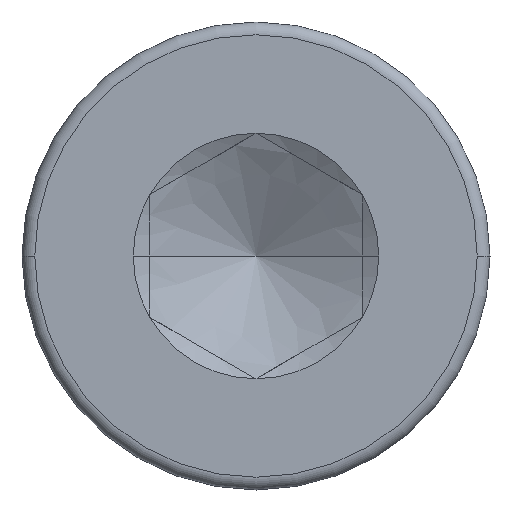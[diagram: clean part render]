
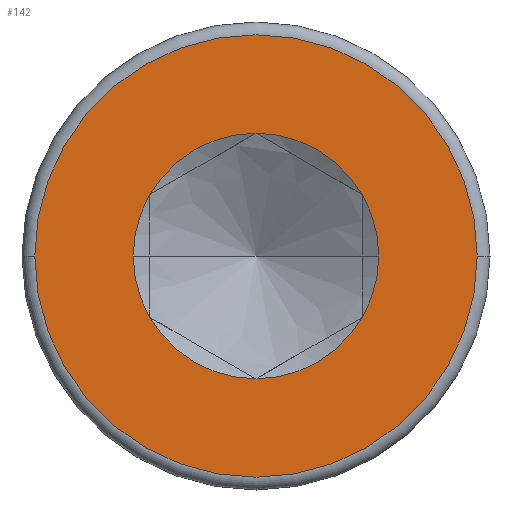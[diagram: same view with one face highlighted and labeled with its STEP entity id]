
A CAD part, left-side view. The second image highlights one B-rep face of the part: STEP entity #142.
In plain terms, the highlighted planar face has unit normal (-1, 0, 0).
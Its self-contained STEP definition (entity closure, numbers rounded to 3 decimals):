
#63=FACE_BOUND('',#214,.F.);
#74=PLANE('',#899);
#142=ADVANCED_FACE('',(#63,#177),#74,.T.);
#177=FACE_OUTER_BOUND('',#215,.F.);
#214=EDGE_LOOP('',(#346,#347,#348,#349,#350,#351,#352,#353,#354,#355,#356,
#357,#358,#359,#360,#361));
#215=EDGE_LOOP('',(#362,#363));
#346=ORIENTED_EDGE('',*,*,#703,.T.);
#347=ORIENTED_EDGE('',*,*,#736,.T.);
#348=ORIENTED_EDGE('',*,*,#735,.T.);
#349=ORIENTED_EDGE('',*,*,#702,.T.);
#350=ORIENTED_EDGE('',*,*,#701,.T.);
#351=ORIENTED_EDGE('',*,*,#734,.T.);
#352=ORIENTED_EDGE('',*,*,#741,.T.);
#353=ORIENTED_EDGE('',*,*,#689,.T.);
#354=ORIENTED_EDGE('',*,*,#700,.T.);
#355=ORIENTED_EDGE('',*,*,#740,.T.);
#356=ORIENTED_EDGE('',*,*,#739,.T.);
#357=ORIENTED_EDGE('',*,*,#699,.T.);
#358=ORIENTED_EDGE('',*,*,#698,.T.);
#359=ORIENTED_EDGE('',*,*,#738,.T.);
#360=ORIENTED_EDGE('',*,*,#737,.T.);
#361=ORIENTED_EDGE('',*,*,#688,.T.);
#362=ORIENTED_EDGE('',*,*,#749,.F.);
#363=ORIENTED_EDGE('',*,*,#742,.F.);
#620=LINE('',#1146,#650);
#621=LINE('',#1147,#651);
#622=LINE('',#1196,#652);
#623=LINE('',#1197,#653);
#624=LINE('',#1198,#654);
#625=LINE('',#1199,#655);
#626=LINE('',#1200,#656);
#627=LINE('',#1201,#657);
#650=VECTOR('',#944,0.001);
#651=VECTOR('',#945,0.001);
#652=VECTOR('',#946,0.001);
#653=VECTOR('',#947,0.001);
#654=VECTOR('',#948,0.001);
#655=VECTOR('',#949,0.001);
#656=VECTOR('',#950,0.001);
#657=VECTOR('',#951,0.001);
#688=EDGE_CURVE('',#832,#831,#620,.T.);
#689=EDGE_CURVE('',#830,#829,#621,.T.);
#698=EDGE_CURVE('',#818,#827,#622,.T.);
#699=EDGE_CURVE('',#819,#818,#623,.T.);
#700=EDGE_CURVE('',#829,#820,#624,.T.);
#701=EDGE_CURVE('',#817,#822,#625,.T.);
#702=EDGE_CURVE('',#824,#817,#626,.T.);
#703=EDGE_CURVE('',#831,#825,#627,.T.);
#734=EDGE_CURVE('',#822,#807,#768,.T.);
#735=EDGE_CURVE('',#826,#824,#769,.T.);
#736=EDGE_CURVE('',#825,#826,#770,.T.);
#737=EDGE_CURVE('',#808,#832,#771,.T.);
#738=EDGE_CURVE('',#827,#808,#772,.T.);
#739=EDGE_CURVE('',#821,#819,#773,.T.);
#740=EDGE_CURVE('',#820,#821,#774,.T.);
#741=EDGE_CURVE('',#807,#830,#775,.T.);
#742=EDGE_CURVE('',#797,#796,#776,.T.);
#749=EDGE_CURVE('',#796,#797,#781,.T.);
#768=CIRCLE('',#859,1.443);
#769=CIRCLE('',#860,1.443);
#770=CIRCLE('',#861,1.443);
#771=CIRCLE('',#862,1.443);
#772=CIRCLE('',#863,1.443);
#773=CIRCLE('',#864,1.443);
#774=CIRCLE('',#865,1.443);
#775=CIRCLE('',#866,1.443);
#776=CIRCLE('',#867,2.6);
#781=CIRCLE('',#872,2.6);
#796=VERTEX_POINT('',#1109);
#797=VERTEX_POINT('',#1110);
#807=VERTEX_POINT('',#1120);
#808=VERTEX_POINT('',#1121);
#817=VERTEX_POINT('',#1130);
#818=VERTEX_POINT('',#1131);
#819=VERTEX_POINT('',#1132);
#820=VERTEX_POINT('',#1133);
#821=VERTEX_POINT('',#1134);
#822=VERTEX_POINT('',#1135);
#824=VERTEX_POINT('',#1137);
#825=VERTEX_POINT('',#1138);
#826=VERTEX_POINT('',#1139);
#827=VERTEX_POINT('',#1140);
#829=VERTEX_POINT('',#1142);
#830=VERTEX_POINT('',#1143);
#831=VERTEX_POINT('',#1144);
#832=VERTEX_POINT('',#1145);
#859=AXIS2_PLACEMENT_3D('',#1272,#982,#983);
#860=AXIS2_PLACEMENT_3D('',#1273,#984,#985);
#861=AXIS2_PLACEMENT_3D('',#1274,#986,#987);
#862=AXIS2_PLACEMENT_3D('',#1275,#988,#989);
#863=AXIS2_PLACEMENT_3D('',#1276,#990,#991);
#864=AXIS2_PLACEMENT_3D('',#1277,#992,#993);
#865=AXIS2_PLACEMENT_3D('',#1278,#994,#995);
#866=AXIS2_PLACEMENT_3D('',#1279,#996,#997);
#867=AXIS2_PLACEMENT_3D('',#1280,#998,#999);
#872=AXIS2_PLACEMENT_3D('',#1287,#1010,#1011);
#899=AXIS2_PLACEMENT_3D('',#1314,#1064,#1065);
#944=DIRECTION('',(0.,0.,1.));
#945=DIRECTION('',(0.,0.,-1.));
#946=DIRECTION('',(0.,0.,1.));
#947=DIRECTION('',(0.,-0.866,0.5));
#948=DIRECTION('',(0.,-0.866,-0.5));
#949=DIRECTION('',(0.,0.,-1.));
#950=DIRECTION('',(0.,0.866,-0.5));
#951=DIRECTION('',(0.,0.866,0.5));
#982=DIRECTION('',(-1.,0.,0.));
#983=DIRECTION('',(0.,0.867,0.499));
#984=DIRECTION('',(-1.,0.,0.));
#985=DIRECTION('',(0.,0.,1.));
#986=DIRECTION('',(-1.,0.,0.));
#987=DIRECTION('',(0.,-0.866,0.5));
#988=DIRECTION('',(-1.,0.,0.));
#989=DIRECTION('',(0.,-1.,0.));
#990=DIRECTION('',(-1.,0.,0.));
#991=DIRECTION('',(0.,-0.867,-0.499));
#992=DIRECTION('',(-1.,0.,0.));
#993=DIRECTION('',(0.,0.,-1.));
#994=DIRECTION('',(-1.,0.,0.));
#995=DIRECTION('',(0.,0.866,-0.5));
#996=DIRECTION('',(-1.,0.,0.));
#997=DIRECTION('',(0.,1.,0.));
#998=DIRECTION('',(-1.,0.,0.));
#999=DIRECTION('',(0.,1.,0.));
#1010=DIRECTION('',(-1.,0.,0.));
#1011=DIRECTION('',(0.,-1.,0.));
#1064=DIRECTION('',(-1.,0.,0.));
#1065=DIRECTION('',(0.,0.,1.));
#1109=CARTESIAN_POINT('',(-3.,-2.6,0.));
#1110=CARTESIAN_POINT('',(-3.,2.6,0.));
#1120=CARTESIAN_POINT('',(-3.,1.443,0.));
#1121=CARTESIAN_POINT('',(-3.,-1.443,0.));
#1130=CARTESIAN_POINT('',(-3.,1.25,0.721));
#1131=CARTESIAN_POINT('',(-3.,-1.25,-0.721));
#1132=CARTESIAN_POINT('',(-3.,-1.249,-0.722));
#1133=CARTESIAN_POINT('',(-3.,1.249,-0.722));
#1134=CARTESIAN_POINT('',(-3.,0.,-1.443));
#1135=CARTESIAN_POINT('',(-3.,1.25,0.72));
#1137=CARTESIAN_POINT('',(-3.,1.249,0.722));
#1138=CARTESIAN_POINT('',(-3.,-1.249,0.722));
#1139=CARTESIAN_POINT('',(-3.,0.,1.443));
#1140=CARTESIAN_POINT('',(-3.,-1.25,-0.72));
#1142=CARTESIAN_POINT('',(-3.,1.25,-0.721));
#1143=CARTESIAN_POINT('',(-3.,1.25,-0.72));
#1144=CARTESIAN_POINT('',(-3.,-1.25,0.721));
#1145=CARTESIAN_POINT('',(-3.,-1.25,0.72));
#1146=CARTESIAN_POINT('',(-3.,-1.25,0.72));
#1147=CARTESIAN_POINT('',(-3.,1.25,-0.72));
#1196=CARTESIAN_POINT('',(-3.,-1.25,-0.721));
#1197=CARTESIAN_POINT('',(-3.,-1.249,-0.722));
#1198=CARTESIAN_POINT('',(-3.,1.25,-0.721));
#1199=CARTESIAN_POINT('',(-3.,1.25,0.721));
#1200=CARTESIAN_POINT('',(-3.,1.249,0.722));
#1201=CARTESIAN_POINT('',(-3.,-1.25,0.721));
#1272=CARTESIAN_POINT('',(-3.,0.,0.));
#1273=CARTESIAN_POINT('',(-3.,0.,0.));
#1274=CARTESIAN_POINT('',(-3.,0.,0.));
#1275=CARTESIAN_POINT('',(-3.,0.,0.));
#1276=CARTESIAN_POINT('',(-3.,0.,0.));
#1277=CARTESIAN_POINT('',(-3.,0.,0.));
#1278=CARTESIAN_POINT('',(-3.,0.,0.));
#1279=CARTESIAN_POINT('',(-3.,0.,0.));
#1280=CARTESIAN_POINT('',(-3.,0.,0.));
#1287=CARTESIAN_POINT('',(-3.,0.,0.));
#1314=CARTESIAN_POINT('',(-3.,-2.652,-2.652));
